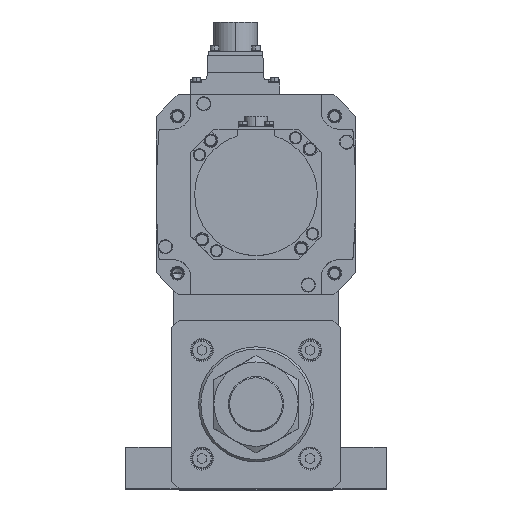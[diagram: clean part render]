
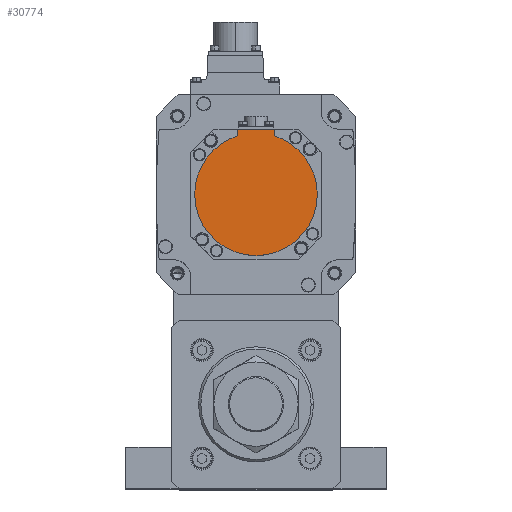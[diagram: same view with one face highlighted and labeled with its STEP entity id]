
A CAD part, top view. The second image highlights one B-rep face of the part: STEP entity #30774.
In plain terms, the highlighted planar face has unit normal (0, 0, 1) as drawn and (0, 0, -1) by its records, which use the part's own axes.
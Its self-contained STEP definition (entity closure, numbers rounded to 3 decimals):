
#79 = EDGE_CURVE ( 'NONE', #26553, #4458, #2350, .T. ) ;
#280 = DIRECTION ( 'NONE',  ( 0., 0., 1. ) ) ;
#2350 = LINE ( 'NONE', #21342, #14556 ) ;
#2543 = VECTOR ( 'NONE', #27047, 1000. ) ;
#2656 = CARTESIAN_POINT ( 'NONE',  ( 0., 0., -132.5 ) ) ;
#3113 = FACE_OUTER_BOUND ( 'NONE', #25577, .T. ) ;
#4328 = CIRCLE ( 'NONE', #15426, 40. ) ;
#4458 = VERTEX_POINT ( 'NONE', #19271 ) ;
#4629 = CARTESIAN_POINT ( 'NONE',  ( -12., -42.5, -132.5 ) ) ;
#6010 = CIRCLE ( 'NONE', #28814, 40. ) ;
#7136 = LINE ( 'NONE', #13627, #2543 ) ;
#7251 = PLANE ( 'NONE',  #27812 ) ;
#7498 = DIRECTION ( 'NONE',  ( 1., 0., 0. ) ) ;
#7722 = CARTESIAN_POINT ( 'NONE',  ( 0., -1.249, -132.5 ) ) ;
#7974 = ORIENTED_EDGE ( 'NONE', *, *, #29130, .F. ) ;
#8550 = CARTESIAN_POINT ( 'NONE',  ( 0., 0., -132.5 ) ) ;
#8570 = ORIENTED_EDGE ( 'NONE', *, *, #23140, .F. ) ;
#10863 = DIRECTION ( 'NONE',  ( 0., 1., 0. ) ) ;
#11101 = EDGE_CURVE ( 'NONE', #14054, #26553, #7136, .T. ) ;
#11124 = DIRECTION ( 'NONE',  ( 1., 0., 0. ) ) ;
#11775 = LINE ( 'NONE', #29629, #13450 ) ;
#11789 = ORIENTED_EDGE ( 'NONE', *, *, #13514, .F. ) ;
#13127 = ORIENTED_EDGE ( 'NONE', *, *, #79, .T. ) ;
#13450 = VECTOR ( 'NONE', #29753, 1000. ) ;
#13514 = EDGE_CURVE ( 'NONE', #33459, #32007, #21740, .T. ) ;
#13627 = CARTESIAN_POINT ( 'NONE',  ( 0., -42.5, -132.5 ) ) ;
#14054 = VERTEX_POINT ( 'NONE', #16268 ) ;
#14303 = DIRECTION ( 'NONE',  ( 1., 0., 0. ) ) ;
#14556 = VECTOR ( 'NONE', #10863, 1000. ) ;
#15331 = EDGE_CURVE ( 'NONE', #32007, #4458, #6010, .T. ) ;
#15426 = AXIS2_PLACEMENT_3D ( 'NONE', #2656, #280, #11124 ) ;
#16268 = CARTESIAN_POINT ( 'NONE',  ( 12., -42.5, -132.5 ) ) ;
#16604 = AXIS2_PLACEMENT_3D ( 'NONE', #8550, #30219, #14303 ) ;
#16781 = VERTEX_POINT ( 'NONE', #22328 ) ;
#18735 = DIRECTION ( 'NONE',  ( 0., 0., 1. ) ) ;
#19271 = CARTESIAN_POINT ( 'NONE',  ( -12., -38.158, -132.5 ) ) ;
#19434 = ORIENTED_EDGE ( 'NONE', *, *, #15331, .F. ) ;
#21342 = CARTESIAN_POINT ( 'NONE',  ( -12., -40.329, -132.5 ) ) ;
#21475 = DIRECTION ( 'NONE',  ( 1., 0., 0. ) ) ;
#21740 = CIRCLE ( 'NONE', #16604, 40. ) ;
#22328 = CARTESIAN_POINT ( 'NONE',  ( 12., -38.158, -132.5 ) ) ;
#23140 = EDGE_CURVE ( 'NONE', #16781, #33459, #4328, .T. ) ;
#25577 = EDGE_LOOP ( 'NONE', ( #13127, #19434, #11789, #8570, #7974, #28831 ) ) ;
#26214 = DIRECTION ( 'NONE',  ( 0., 0., 1. ) ) ;
#26553 = VERTEX_POINT ( 'NONE', #4629 ) ;
#26989 = CARTESIAN_POINT ( 'NONE',  ( 0., 0., -132.5 ) ) ;
#27047 = DIRECTION ( 'NONE',  ( -1., 0., 0. ) ) ;
#27812 = AXIS2_PLACEMENT_3D ( 'NONE', #7722, #26214, #7498 ) ;
#28408 = CARTESIAN_POINT ( 'NONE',  ( -40., 0., -132.5 ) ) ;
#28814 = AXIS2_PLACEMENT_3D ( 'NONE', #26989, #18735, #21475 ) ;
#28831 = ORIENTED_EDGE ( 'NONE', *, *, #11101, .T. ) ;
#28911 = CARTESIAN_POINT ( 'NONE',  ( 40., 0., -132.5 ) ) ;
#29130 = EDGE_CURVE ( 'NONE', #14054, #16781, #11775, .T. ) ;
#29629 = CARTESIAN_POINT ( 'NONE',  ( 12., -1.249, -132.5 ) ) ;
#29753 = DIRECTION ( 'NONE',  ( 0., 1., 0. ) ) ;
#30219 = DIRECTION ( 'NONE',  ( 0., 0., 1. ) ) ;
#30774 = ADVANCED_FACE ( 'NONE', ( #3113 ), #7251, .F. ) ;
#32007 = VERTEX_POINT ( 'NONE', #28408 ) ;
#33459 = VERTEX_POINT ( 'NONE', #28911 ) ;
